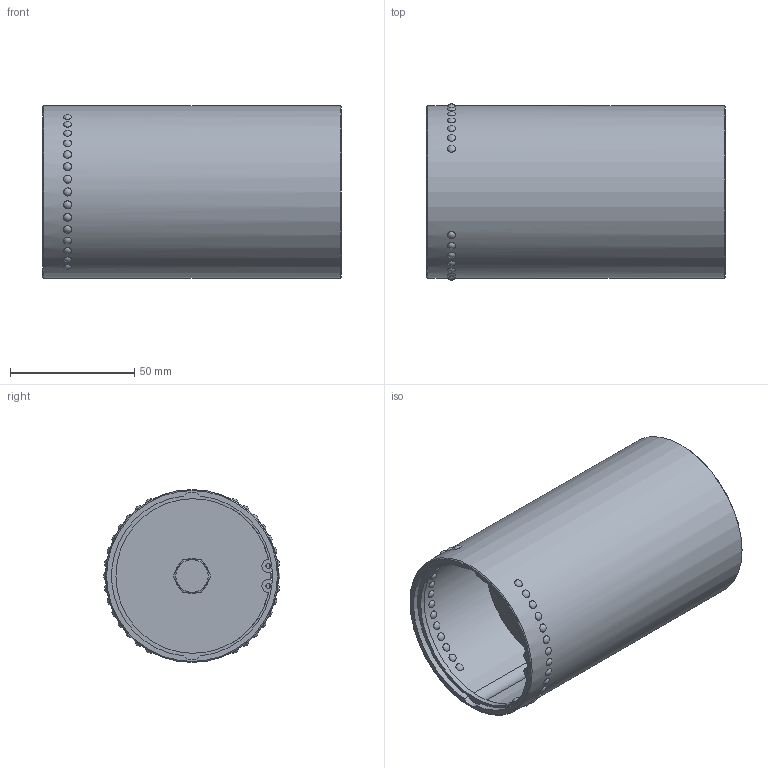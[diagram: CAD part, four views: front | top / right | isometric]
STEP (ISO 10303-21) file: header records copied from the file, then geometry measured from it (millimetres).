
FILE_DESCRIPTION(/* description */ ('Impex Ready, www.impex-ready.pl'),/* implementation_level */ '2;1');
FILE_NAME(/* name */ 'C:\Users\VIKKY\Nextcloud\SM\projekt 10 - części na stronę internetową\Pliki_3D_new\279 Koszyki GSAB\279 GSAB_STEP\GSAB63120.ipt.step',/* time_stamp */ '2022-01-19T06:34:46+01:00',/* author */ ('SM'),/* organization */ (''),/* preprocessor_version */ 'ST-DEVELOPER v18.1',/* originating_system */ 'Autodesk Inventor 2021',/* authorisation */ '');
FILE_SCHEMA (('AUTOMOTIVE_DESIGN { 1 0 10303 214 3 1 1 }','TECHNICAL_DATA_PACKAGING'));
Length unit declared in the file: millimetre
Products named in the file (1): GSAB63120
Bounding box: 120 x 71 x 69.4 mm (x, y, z)
Volume: 67254.4 mm3; surface area: 62071.7 mm2
Topology: 5 solids, 5 shells, 115 faces, 188 edges, 145 vertices
Faces by surface type: sphere 60, cylinder 24, plane 22, cone 9
Full cylindrical faces by diameter (mm): 2 x2, 8 x1, 8.2 x1, 12 x2, 14 x1, 64.6 x1, 67.7 x1, 69.4 x1
Entity records: 5110 total; most frequent: CARTESIAN_POINT 2697, DIRECTION 407, ORIENTED_EDGE 376, EDGE_CURVE 188, EDGE_LOOP 187, AXIS2_PLACEMENT_3D 179, VERTEX_POINT 145, STYLED_ITEM 120
